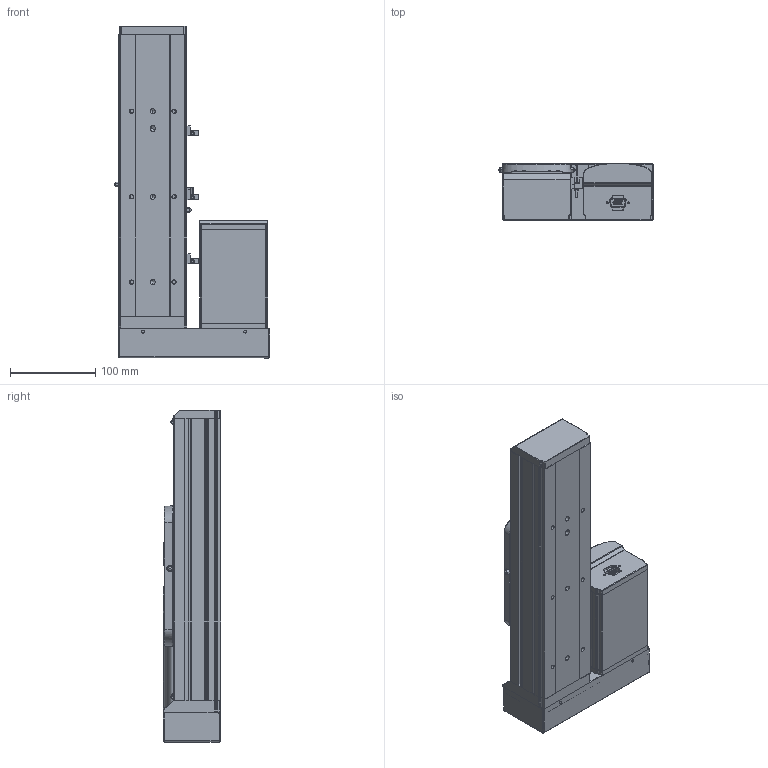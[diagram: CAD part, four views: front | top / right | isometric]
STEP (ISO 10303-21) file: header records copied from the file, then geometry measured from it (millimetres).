
FILE_DESCRIPTION (( 'STEP AP203' ), '1' );
FILE_NAME ('GERC80-150-NLXD.STEP', '2020-05-21T10:49:05', ( '' ), ( '' ), 'SwSTEP 2.0', 'SolidWorks 2019', '' );
FILE_SCHEMA (( 'CONFIG_CONTROL_DESIGN' ));
Length unit declared in the file: millimetre
Products named in the file (3): GERC80-150-NLXD; Group1^GERC80-150-NLXD_defeature_GMT; Group2^GERC80-150-NLXD_defeature_GMT
Assembly tree (2 placements, depth 2):
  GERC80-150-NLXD
    Group1^GERC80-150-NLXD_defeature_GMT
    Group2^GERC80-150-NLXD_defeature_GMT
Bounding box: 182 x 67.5 x 389 mm (x, y, z)
Volume: 1638544.3 mm3; surface area: 379606.9 mm2
Topology: 4 solids, 4 shells, 1673 faces, 4434 edges, 2748 vertices
Faces by surface type: plane 907, cylinder 464, bspline 126, cone 122, sphere 44, torus 10
Entity records: 59226 total; most frequent: CARTESIAN_POINT 17837, ORIENTED_EDGE 8798, DIRECTION 8518, EDGE_CURVE 4399, AXIS2_PLACEMENT_3D 2927, VERTEX_POINT 2742, LINE 2664, VECTOR 2664
